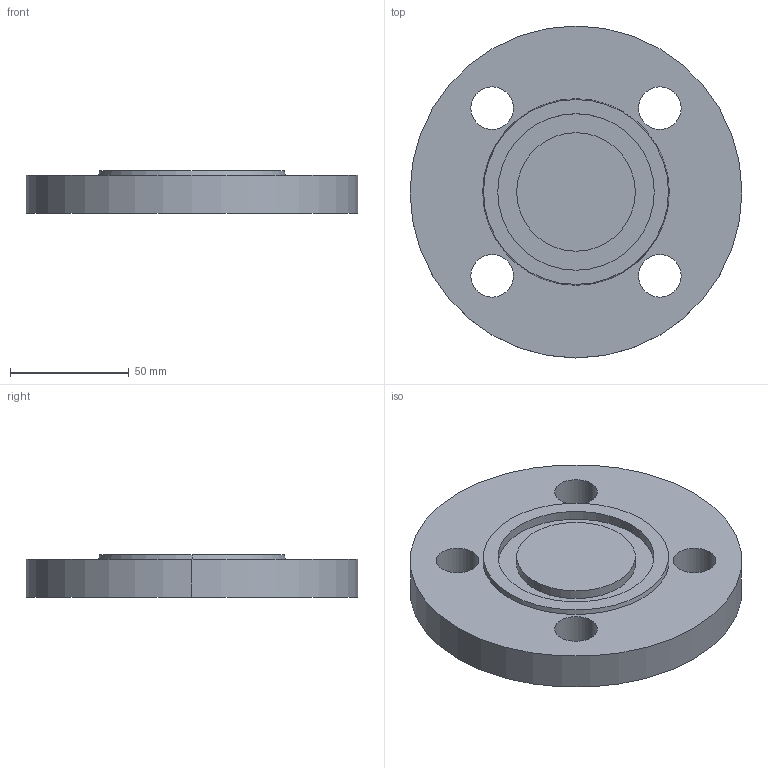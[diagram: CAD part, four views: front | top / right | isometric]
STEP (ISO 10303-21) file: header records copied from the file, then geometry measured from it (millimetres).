
FILE_DESCRIPTION (( 'STEP AP214' ), '1' );
FILE_NAME ('PN40 DN32 Type 05 - Type D Face.STEP', '2018-12-30T00:02:26', ( '' ), ( '' ), 'SwSTEP 2.0', 'SolidWorks 2019', '' );
FILE_SCHEMA (( 'AUTOMOTIVE_DESIGN' ));
Length unit declared in the file: millimetre
Products named in the file (1): PN40 DN32 Type 05 - Type D Face
Bounding box: 140 x 140 x 18 mm (x, y, z)
Volume: 233827.5 mm3; surface area: 41278.9 mm2
Topology: 1 solids, 1 shells, 21 faces, 48 edges, 32 vertices
Faces by surface type: cylinder 14, plane 5, cone 2
Entity records: 664 total; most frequent: DIRECTION 124, CARTESIAN_POINT 102, ORIENTED_EDGE 96, AXIS2_PLACEMENT_3D 54, EDGE_CURVE 48, CIRCLE 32, EDGE_LOOP 32, VERTEX_POINT 32
